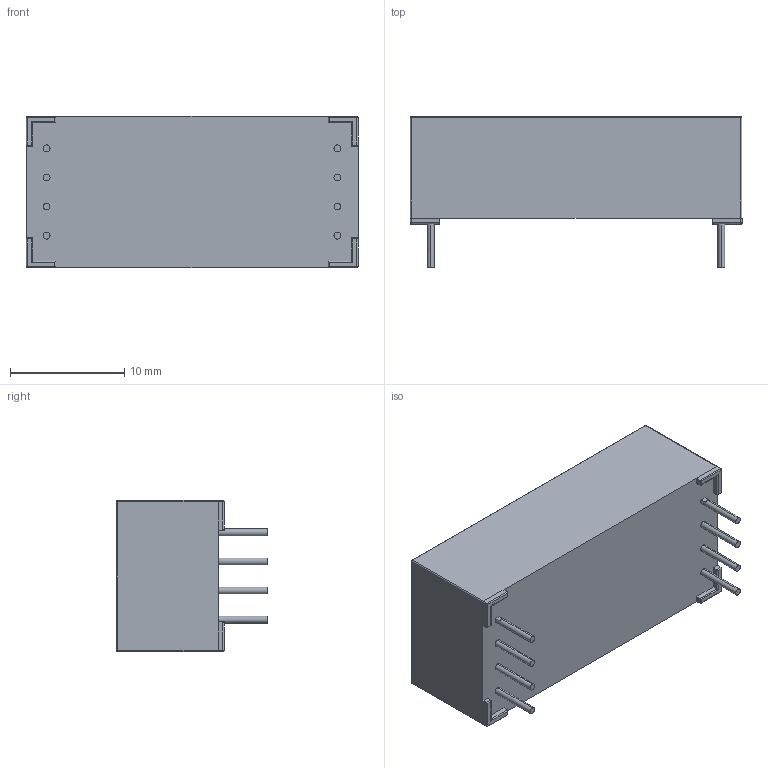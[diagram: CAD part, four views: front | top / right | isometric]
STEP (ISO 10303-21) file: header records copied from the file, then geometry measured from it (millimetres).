
FILE_DESCRIPTION (( 'STEP AP203' ), '1' );
FILE_NAME ('80-3-A.STEP', '2010-06-29T15:23:44', ( ' ' ), ( '' ), 'SwSTEP 2.0', 'SolidWorks 2009', '' );
FILE_SCHEMA (( 'CONFIG_CONTROL_DESIGN' ));
Length unit declared in the file: millimetre
Products named in the file (1): 80-3-A
Bounding box: 29 x 13.2 x 13.2 mm (x, y, z)
Volume: 3416.3 mm3; surface area: 1594.6 mm2
Topology: 1 solids, 1 shells, 727 faces, 1898 edges, 1240 vertices
Faces by surface type: plane 420, bspline 247, cylinder 52, sphere 8
Entity records: 35267 total; most frequent: CARTESIAN_POINT 19085, ORIENTED_EDGE 3780, DIRECTION 2406, EDGE_CURVE 1890, LINE 1308, VECTOR 1308, VERTEX_POINT 1240, EDGE_LOOP 802
